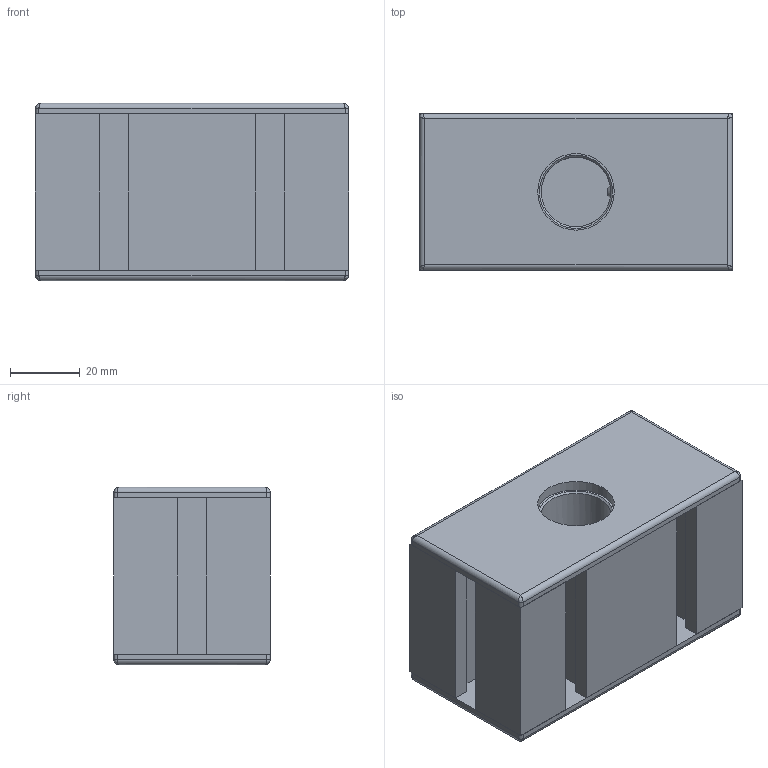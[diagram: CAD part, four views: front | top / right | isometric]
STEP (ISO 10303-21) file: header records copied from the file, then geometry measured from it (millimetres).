
FILE_DESCRIPTION((''),'2;1');
FILE_NAME('C:\Documents and Settings\Administrator\My Documents\Andys Backup Data\ANDY''S INVENTOR\INVENTOR LIBRARIES\MINITEC INVENTOR LIBRARIES\READY FOR USE MODULES LB\28.0151 SHAFT SUPPORT BLOCK WB 45.stp','2009-04-06T09:44:34',('Administrator'),(''),'Autodesk Inventor 2009','Autodesk Inventor 2009','');
FILE_SCHEMA(('AUTOMOTIVE_DESIGN { 1 0 10303 214 1 1 1 1 }'));
Products named in the file (7): 28.0151 SHAFT SUPPORT BLOCK WB 45; 22.1068_1 END CAP 45X90 GRAY; 28.0146 CENTERING BUSH; 28.0094_1 END CAP LB 45 GRAY; DIN 914 M8 x 35; 21.1351 M8 SQUARE NUT
Assembly tree (6 placements, depth 2):
  28.0151 SHAFT SUPPORT BLOCK WB 45
    28.0151 SHAFT SUPPORT BLOCK WB 45
    22.1068_1 END CAP 45X90 GRAY
    28.0146 CENTERING BUSH
    28.0094_1 END CAP LB 45 GRAY
    DIN 914 M8 x 35
    21.1351 M8 SQUARE NUT
Bounding box: 90 x 45 x 51.01 mm (x, y, z)
Volume: 112120.8 mm3; surface area: 70773.1 mm2
Topology: 6 solids, 6 shells, 164 faces, 441 edges, 278 vertices
Faces by surface type: plane 106, cylinder 38, bspline 12, cone 8
Full cylindrical faces by diameter (mm): 7.5 x3, 8 x2, 8.2 x1, 11.7 x4, 20 x1, 22 x1, 32 x2
Entity records: 6078 total; most frequent: CARTESIAN_POINT 1978, ORIENTED_EDGE 794, DIRECTION 774, EDGE_CURVE 397, VECTOR 288, LINE 288, VERTEX_POINT 267, AXIS2_PLACEMENT_3D 243
